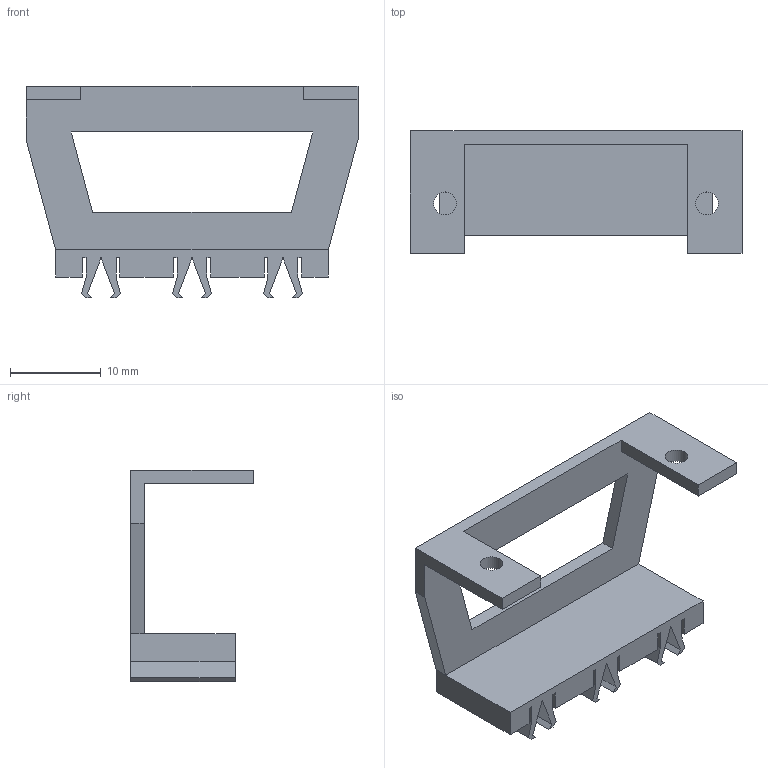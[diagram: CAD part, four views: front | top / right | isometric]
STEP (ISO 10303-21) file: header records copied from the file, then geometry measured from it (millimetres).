
FILE_DESCRIPTION(/* description */ (''),/* implementation_level */ '2;1');
FILE_NAME(/* name */ 'C:/Users/priba/Downloads/mrm-ps-1109hbHolderA.step',/* time_stamp */ '2022-04-05T09:21:58+02:00',/* author */ (''),/* organization */ (''),/* preprocessor_version */ 'ST-DEVELOPER v18.1',/* originating_system */ 'Autodesk Translation Framework v10.13.0.1454',/* authorisation */ '');
FILE_SCHEMA (('AUTOMOTIVE_DESIGN { 1 0 10303 214 3 1 1 }'));
Length unit declared in the file: millimetre
Products named in the file (1): mrm-ps-1109hbHolderA
Bounding box: 36.5 x 13.5 x 23.31 mm (x, y, z)
Volume: 1838.9 mm3; surface area: 3006.2 mm2
Topology: 1 solids, 1 shells, 80 faces, 232 edges, 154 vertices
Faces by surface type: plane 78, cylinder 2
Full cylindrical faces by diameter (mm): 2.5 x2
Entity records: 2618 total; most frequent: CARTESIAN_POINT 467, ORIENTED_EDGE 464, DIRECTION 398, EDGE_CURVE 232, LINE 228, VECTOR 228, VERTEX_POINT 154, EDGE_LOOP 86
